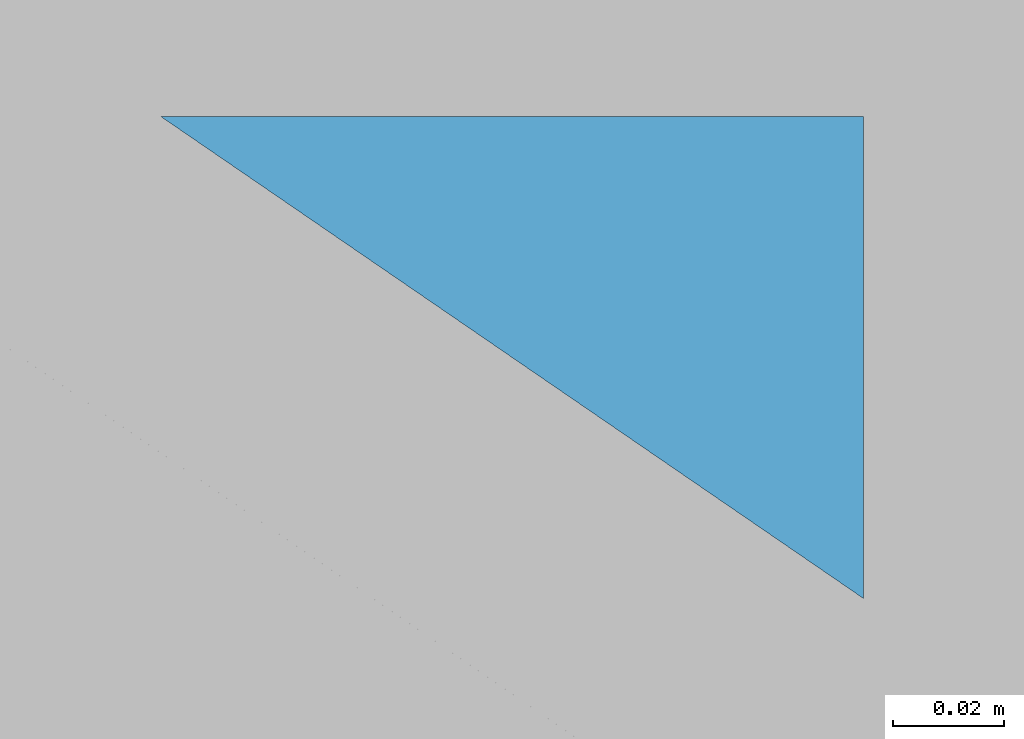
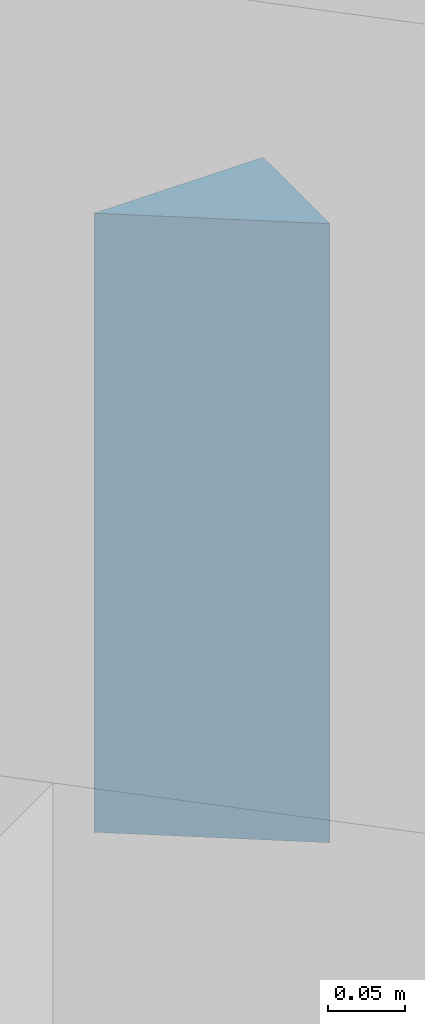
# One storey, part 2 of 8: 1 slab.
"""IFC2X3 building model written with IfcOpenShell, lengths in millimetres."""

from ifc_helpers import new_model, entity, si_unit, converted_unit, derived_unit, money_unit, direction, frame, origin_with_axes, place, context, subcontext, project, spatial, faceted_brep, type_object, element, save


model = new_model("IFC2X3")

# Units and contexts
model_context = context("Model", 3, precision=0.01, world=origin_with_axes(), true_north=direction((0.0, 1.0)))
body_context = subcontext(model_context, "Body", "Model", "MODEL_VIEW")
ifc_project = project(units=[si_unit("LENGTHUNIT", "METRE", prefix="MILLI"), si_unit("AREAUNIT", "SQUARE_METRE"), si_unit("VOLUMEUNIT", "CUBIC_METRE"), converted_unit("PLANEANGLEUNIT", "DEGREE", entity("IfcPlaneAngleMeasure", 0.0174532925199), si_unit("PLANEANGLEUNIT", "RADIAN"), dimensions=[0, 0, 0, 0, 0, 0, 0]), si_unit("SOLIDANGLEUNIT", "STERADIAN"), money_unit("EUR"), converted_unit("TIMEUNIT", "Year", entity("IfcTimeMeasure", 31556926.0), si_unit("TIMEUNIT", "SECOND"), dimensions=[0, 0, 1, 0, 0, 0, 0]), si_unit("MASSUNIT", "GRAM", prefix="KILO"), si_unit("THERMODYNAMICTEMPERATUREUNIT", "DEGREE_CELSIUS"), si_unit("LUMINOUSINTENSITYUNIT", "LUMEN"), si_unit("ENERGYUNIT", "JOULE", prefix="MEGA"), derived_unit("THERMALCONDUCTANCEUNIT", [(si_unit("POWERUNIT", "WATT"), 1), (si_unit("LENGTHUNIT", "METRE"), -1), (si_unit("THERMODYNAMICTEMPERATUREUNIT", "KELVIN"), -1)]), derived_unit("SPECIFICHEATCAPACITYUNIT", [(si_unit("ENERGYUNIT", "JOULE"), 1), (si_unit("MASSUNIT", "GRAM", prefix="KILO"), -1), (si_unit("THERMODYNAMICTEMPERATUREUNIT", "KELVIN"), -1)]), derived_unit("MASSDENSITYUNIT", [(si_unit("MASSUNIT", "GRAM", prefix="KILO"), 1), (si_unit("VOLUMEUNIT", "CUBIC_METRE"), -1)])], contexts=[model_context])

# Site, building, storey
site_placement = place(None, origin_with_axes())
site = spatial("IfcSite", under=ifc_project, at=site_placement, Name="L.Koidula tn 11b", CompositionType="ELEMENT")
building_placement = place(site_placement, origin_with_axes())
building = spatial("IfcBuilding", under=site, at=building_placement, Name="Rakvere Riigigümnaasium", CompositionType="ELEMENT")
storey_placement = place(building_placement, frame((0.0, 0.0, -2100.0), z_axis=(0.0, 0.0, 1.0), x_axis=(1.0, 0.0, 0.0)))
storey = spatial("IfcBuildingStorey", under=building, at=storey_placement, Name="1.korrus_tehniline -2,10", CompositionType="ELEMENT", Elevation=-2100.0)

# Slab
slab_type = type_object("IfcSlabType", Name="MISSING 490", PredefinedType="NOTDEFINED")
slab_placement = place(storey_placement, frame((73903.2083767, 25687.9371768, -490.0), z_axis=(0.0, 0.0, 1.0), x_axis=(1.0, 0.0, 0.0)))
element("IfcSlab", 1, at=slab_placement, inside=storey, type_object=slab_type, Name="Põrand pinnasel", PredefinedType="NOTDEFINED", context=body_context, shape_type="Brep", body=[
    faceted_brep([(0.0, 0.0, 490.0), (0.0, 0.0, 0.0), (126.65435393, -86.8693655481, 0.0), (126.65435393, -86.8693655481, 490.0), (126.65435393, 0.0, 490.0), (126.65435393, 0.0, 0.0)], [[[0, 1, 2, 3]], [[4, 5, 1, 0]], [[2, 1, 5]], [[3, 2, 5, 4]], [[4, 0, 3]]]),
])

save(model, "model.ifc")
